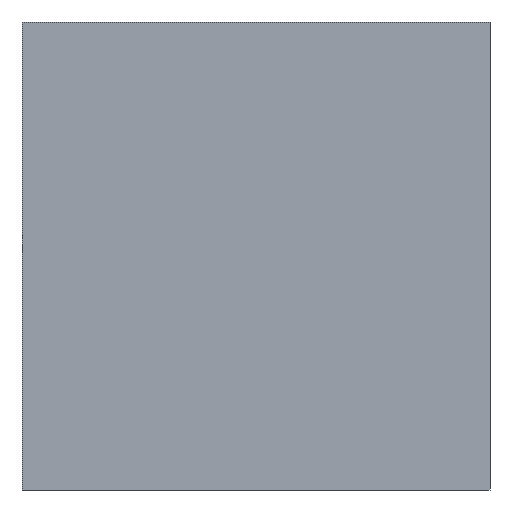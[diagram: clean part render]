
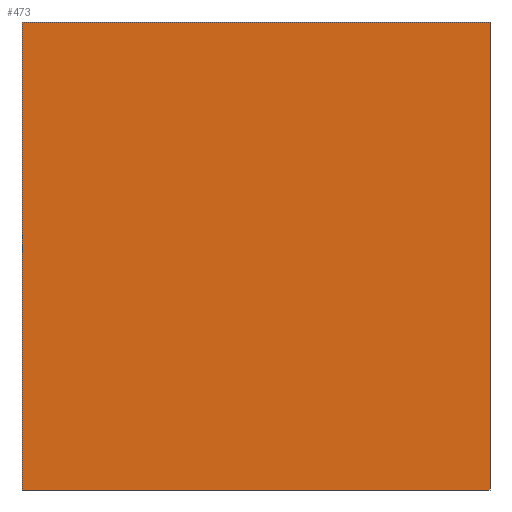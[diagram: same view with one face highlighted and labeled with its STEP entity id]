
A CAD part, left-side view. The second image highlights one B-rep face of the part: STEP entity #473.
In plain terms, the highlighted planar face has unit normal (-1, 0, 0).
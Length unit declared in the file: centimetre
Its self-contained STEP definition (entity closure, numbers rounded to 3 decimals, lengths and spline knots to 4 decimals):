
#48 = ORIENTED_EDGE ( 'NONE', *, *, #226, .F. ) ;
#146 = DIRECTION ( 'NONE',  ( 0., -1., 0. ) ) ;
#166 = DIRECTION ( 'NONE',  ( 0., 0., -1. ) ) ;
#178 = PLANE ( 'NONE',  #787 ) ;
#185 = VERTEX_POINT ( 'NONE', #619 ) ;
#186 = EDGE_CURVE ( 'NONE', #454, #185, #478, .T. ) ;
#189 = EDGE_CURVE ( 'NONE', #459, #185, #740, .T. ) ;
#194 = DIRECTION ( 'NONE',  ( 0., -1., 0. ) ) ;
#226 = EDGE_CURVE ( 'NONE', #370, #454, #461, .T. ) ;
#232 = LINE ( 'NONE', #498, #828 ) ;
#342 = ORIENTED_EDGE ( 'NONE', *, *, #189, .T. ) ;
#370 = VERTEX_POINT ( 'NONE', #540 ) ;
#445 = VECTOR ( 'NONE', #146, 100. ) ;
#454 = VERTEX_POINT ( 'NONE', #618 ) ;
#459 = VERTEX_POINT ( 'NONE', #563 ) ;
#461 = LINE ( 'NONE', #662, #551 ) ;
#472 = DIRECTION ( 'NONE',  ( 0., 0., -1. ) ) ;
#473 = ADVANCED_FACE ( 'NONE', ( #636 ), #178, .F. ) ;
#478 = LINE ( 'NONE', #803, #816 ) ;
#498 = CARTESIAN_POINT ( 'NONE',  ( 0., 1000., 1000. ) ) ;
#540 = CARTESIAN_POINT ( 'NONE',  ( 0., 1000., 1000. ) ) ;
#551 = VECTOR ( 'NONE', #194, 100. ) ;
#563 = CARTESIAN_POINT ( 'NONE',  ( 0., 1000., 0. ) ) ;
#610 = ORIENTED_EDGE ( 'NONE', *, *, #725, .T. ) ;
#618 = CARTESIAN_POINT ( 'NONE',  ( 0., 0., 1000. ) ) ;
#619 = CARTESIAN_POINT ( 'NONE',  ( 0., 0., 0. ) ) ;
#636 = FACE_OUTER_BOUND ( 'NONE', #781, .T. ) ;
#662 = CARTESIAN_POINT ( 'NONE',  ( 0., 1000., 1000. ) ) ;
#716 = CARTESIAN_POINT ( 'NONE',  ( 0., 1000., 1000. ) ) ;
#725 = EDGE_CURVE ( 'NONE', #370, #459, #232, .T. ) ;
#740 = LINE ( 'NONE', #745, #445 ) ;
#745 = CARTESIAN_POINT ( 'NONE',  ( 0., 1000., 0. ) ) ;
#781 = EDGE_LOOP ( 'NONE', ( #342, #858, #48, #610 ) ) ;
#782 = DIRECTION ( 'NONE',  ( 1., 0., 0. ) ) ;
#787 = AXIS2_PLACEMENT_3D ( 'NONE', #716, #782, #836 ) ;
#803 = CARTESIAN_POINT ( 'NONE',  ( 0., 0., 1000. ) ) ;
#816 = VECTOR ( 'NONE', #472, 100. ) ;
#828 = VECTOR ( 'NONE', #166, 100. ) ;
#836 = DIRECTION ( 'NONE',  ( 0., 0., -1. ) ) ;
#858 = ORIENTED_EDGE ( 'NONE', *, *, #186, .F. ) ;
